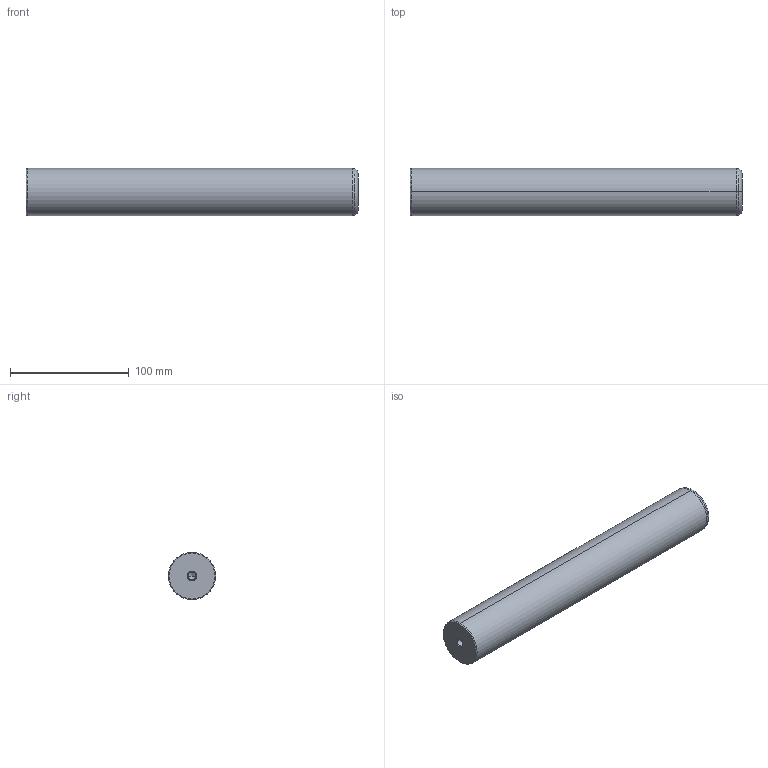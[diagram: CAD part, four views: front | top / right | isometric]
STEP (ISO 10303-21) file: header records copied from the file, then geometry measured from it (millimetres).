
FILE_DESCRIPTION(('CATIA V5 STEP Exchange'),'2;1');
FILE_NAME('C:\Users\Utente\Desktop\IO LAVORO\3D X SITO CF\X SITO\720\720-40x280.stp','2020-12-30T21:57:55+00:00',('none'),('none'),'CATIA Version 5 Release 20 GA (IN-10)','CATIA V5 STEP AP203','none');
FILE_SCHEMA(('CONFIG_CONTROL_DESIGN'));
Length unit declared in the file: millimetre
Products named in the file (1): 720-40x280
Bounding box: 280 x 40 x 40 mm (x, y, z)
Volume: 349484.6 mm3; surface area: 38370 mm2
Topology: 1 solids, 1 shells, 22 faces, 56 edges, 34 vertices
Faces by surface type: cone 12, cylinder 6, plane 2, torus 2
Entity records: 755 total; most frequent: CARTESIAN_POINT 216, ORIENTED_EDGE 104, DIRECTION 89, EDGE_CURVE 52, AXIS2_PLACEMENT_3D 50, VERTEX_POINT 34, CIRCLE 27, EDGE_LOOP 24
